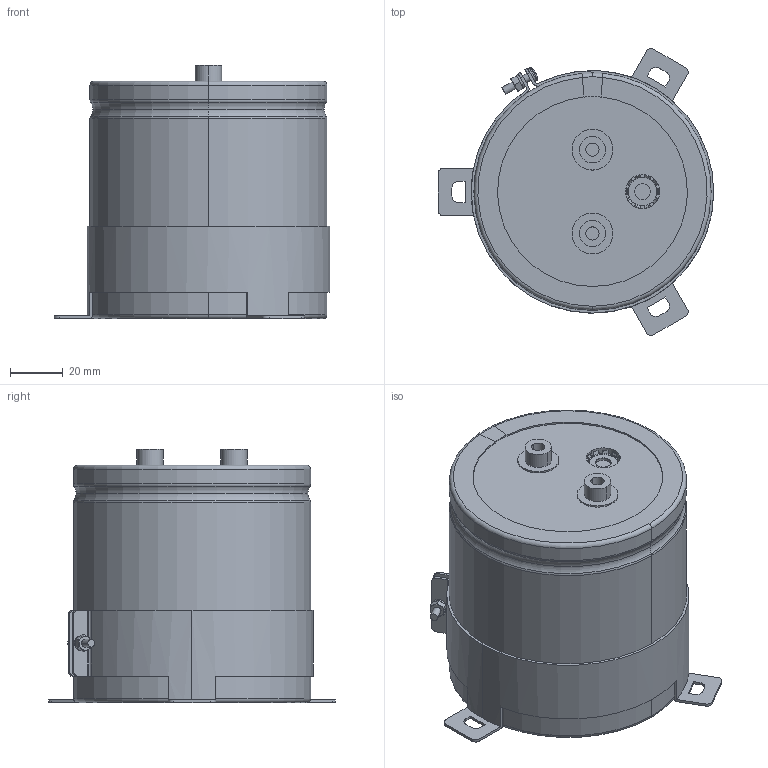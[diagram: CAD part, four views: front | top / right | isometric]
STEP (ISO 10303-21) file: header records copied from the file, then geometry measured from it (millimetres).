
FILE_DESCRIPTION(('STEP AP214'),'1');
FILE_NAME('90x90_Screw.stp','2022-03-14T05:43:14',(' '),(' '),'Spatial InterOp 3D',' ',' ');
FILE_SCHEMA(('AUTOMOTIVE_DESIGN { 1 0 10303 214 1 1 1 1 }'));
Length unit declared in the file: metre
Products named in the file (10): 90x90_Screw; Component1; Component2; Component3; Component4; Component5; Component6; Component7; Component8; Component9
Assembly tree (9 placements, depth 2):
  90x90_Screw
    Component1
    Component2
    Component3
    Component4
    Component5
    Component6
    Component7
    Component8
    Component9
Bounding box: 104.5 x 108.86 x 96 mm (x, y, z)
Volume: 575115.6 mm3; surface area: 116122 mm2
Topology: 9 solids, 9 shells, 352 faces, 873 edges, 551 vertices
Faces by surface type: plane 112, cylinder 110, torus 90, cone 38, sphere 2
Entity records: 11474 total; most frequent: DIRECTION 2126, CARTESIAN_POINT 1918, ORIENTED_EDGE 1746, AXIS2_PLACEMENT_3D 919, EDGE_CURVE 873, VERTEX_POINT 551, CIRCLE 511, EDGE_LOOP 380
